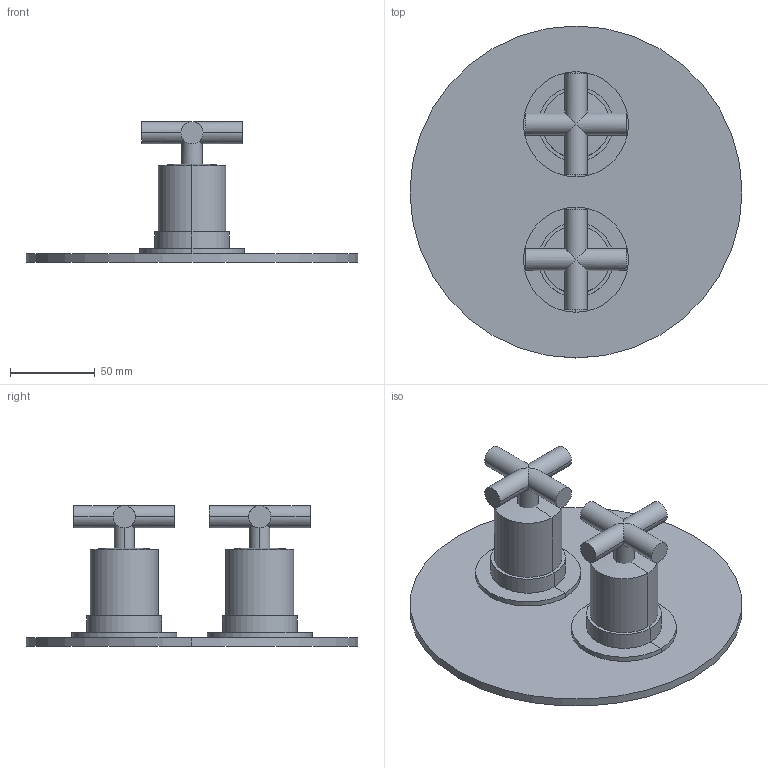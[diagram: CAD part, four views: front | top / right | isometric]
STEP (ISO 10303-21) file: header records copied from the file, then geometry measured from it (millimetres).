
FILE_DESCRIPTION(('FreeCAD Model'),'2;1');
FILE_NAME('Open CASCADE Shape Model','2024-08-08T17:41:14',('Author'),( ''),'Open CASCADE STEP processor 7.6','FreeCAD','Unknown');
FILE_SCHEMA(('AUTOMOTIVE_DESIGN { 1 0 10303 214 1 1 1 1 }'));
Length unit declared in the file: millimetre
Products named in the file (6): TopLevelAssembly; Wyciąganie001; Obrót profilu; Obrót profilu001; Połączona geometria bryłowa; Połączona geometria bryłowa001
Assembly tree (5 placements, depth 2):
  TopLevelAssembly
    Wyciąganie001
    Obrót profilu
    Obrót profilu001
    Połączona geometria bryłowa
    Połączona geometria bryłowa001
Bounding box: 196 x 196 x 83 mm (x, y, z)
Volume: 330447.2 mm3; surface area: 99683.7 mm2
Topology: 5 solids, 5 shells, 62 faces, 128 edges, 72 vertices
Faces by surface type: cylinder 34, plane 24, bspline 4
Entity records: 1868 total; most frequent: CARTESIAN_POINT 428, DIRECTION 308, ORIENTED_EDGE 248, AXIS2_PLACEMENT_3D 132, EDGE_CURVE 124, VERTEX_POINT 72, ADVANCED_FACE 62, FACE_BOUND 62
